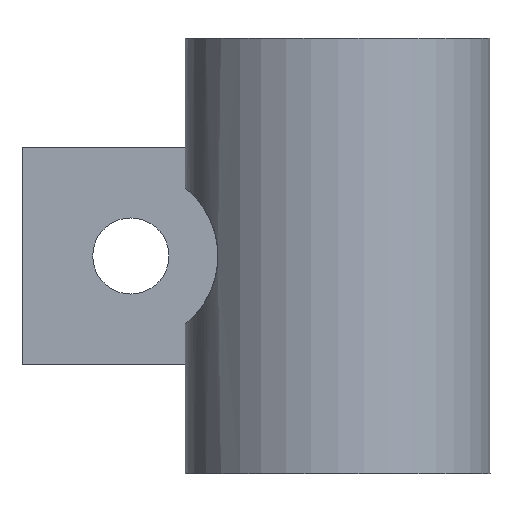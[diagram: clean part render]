
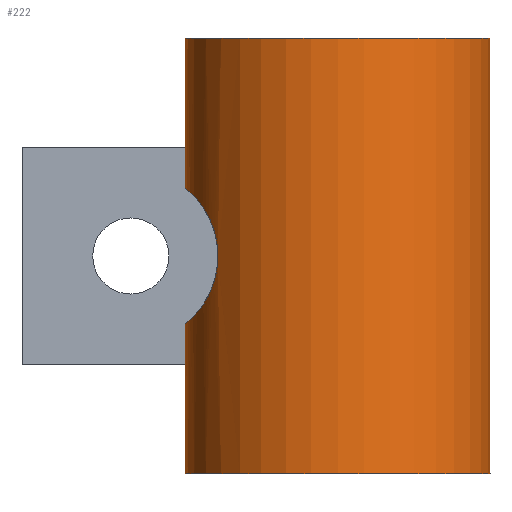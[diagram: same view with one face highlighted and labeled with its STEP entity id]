
A CAD part, left-side view. The second image highlights one B-rep face of the part: STEP entity #222.
In plain terms, the highlighted cylindrical face has radius 7 mm (diameter 14 mm), a full revolution.
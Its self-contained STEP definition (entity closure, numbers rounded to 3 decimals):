
#15=B_SPLINE_CURVE_WITH_KNOTS('',3,(#342,#343,#344,#345,#346,#347,#348,
#349,#350,#351,#352,#353,#354,#355,#356,#357,#358,#359,#360,#361,#362,#363),
 .UNSPECIFIED.,.F.,.F.,(4,2,2,2,2,2,2,2,2,2,4),(-1.221,-0.998,
-0.887,-0.776,-0.693,-0.61,
-0.527,-0.445,-0.333,-0.222,
0.),.UNSPECIFIED.);
#18=CYLINDRICAL_SURFACE('',#241,7.);
#23=FACE_BOUND('',#61,.T.);
#24=FACE_BOUND('',#62,.T.);
#31=CIRCLE('',#240,7.);
#32=CIRCLE('',#242,7.);
#33=CIRCLE('',#243,7.);
#34=CIRCLE('',#244,7.);
#44=FACE_OUTER_BOUND('',#60,.T.);
#60=EDGE_LOOP('',(#182));
#61=EDGE_LOOP('',(#183,#184,#185,#186,#187,#188));
#62=EDGE_LOOP('',(#189));
#74=LINE('',#324,#91);
#81=LINE('',#367,#98);
#85=LINE('',#374,#102);
#91=VECTOR('',#259,10.);
#98=VECTOR('',#278,10.);
#102=VECTOR('',#282,10.);
#105=VERTEX_POINT('',#317);
#108=VERTEX_POINT('',#322);
#114=VERTEX_POINT('',#340);
#115=VERTEX_POINT('',#341);
#116=VERTEX_POINT('',#366);
#119=VERTEX_POINT('',#372);
#121=VERTEX_POINT('',#382);
#122=VERTEX_POINT('',#385);
#128=EDGE_CURVE('',#108,#105,#74,.T.);
#136=EDGE_CURVE('',#114,#115,#15,.T.);
#138=EDGE_CURVE('',#116,#114,#81,.T.);
#142=EDGE_CURVE('',#115,#119,#85,.T.);
#144=EDGE_CURVE('',#108,#116,#31,.T.);
#146=EDGE_CURVE('',#121,#121,#32,.T.);
#147=EDGE_CURVE('',#119,#105,#33,.T.);
#148=EDGE_CURVE('',#122,#122,#34,.T.);
#182=ORIENTED_EDGE('',*,*,#146,.F.);
#183=ORIENTED_EDGE('',*,*,#144,.T.);
#184=ORIENTED_EDGE('',*,*,#138,.T.);
#185=ORIENTED_EDGE('',*,*,#136,.T.);
#186=ORIENTED_EDGE('',*,*,#142,.T.);
#187=ORIENTED_EDGE('',*,*,#147,.T.);
#188=ORIENTED_EDGE('',*,*,#128,.F.);
#189=ORIENTED_EDGE('',*,*,#148,.F.);
#222=ADVANCED_FACE('',(#44,#23,#24),#18,.T.);
#240=AXIS2_PLACEMENT_3D('',#379,#289,#290);
#241=AXIS2_PLACEMENT_3D('',#381,#292,#293);
#242=AXIS2_PLACEMENT_3D('',#383,#294,#295);
#243=AXIS2_PLACEMENT_3D('',#384,#296,#297);
#244=AXIS2_PLACEMENT_3D('',#386,#298,#299);
#259=DIRECTION('',(0.,0.,-1.));
#278=DIRECTION('',(0.,0.,-1.));
#282=DIRECTION('',(0.,0.,-1.));
#289=DIRECTION('center_axis',(0.,0.,1.));
#290=DIRECTION('ref_axis',(-0.766,-0.643,0.));
#292=DIRECTION('center_axis',(0.,0.,1.));
#293=DIRECTION('ref_axis',(-1.,0.,0.));
#294=DIRECTION('center_axis',(0.,0.,1.));
#295=DIRECTION('ref_axis',(-1.,0.,0.));
#296=DIRECTION('center_axis',(0.,0.,-1.));
#297=DIRECTION('ref_axis',(-1.,0.,0.));
#298=DIRECTION('center_axis',(0.,0.,-1.));
#299=DIRECTION('ref_axis',(-1.,0.,0.));
#317=CARTESIAN_POINT('',(2.917,-6.363,5.));
#322=CARTESIAN_POINT('',(2.917,-6.363,15.));
#324=CARTESIAN_POINT('',(2.917,-6.363,0.));
#340=CARTESIAN_POINT('',(0.,7.,13.122));
#341=CARTESIAN_POINT('',(0.,7.,6.878));
#342=CARTESIAN_POINT('Ctrl Pts',(0.,7.,13.122));
#343=CARTESIAN_POINT('Ctrl Pts',(-0.741,7.,13.122));
#344=CARTESIAN_POINT('Ctrl Pts',(-1.526,6.87,13.031));
#345=CARTESIAN_POINT('Ctrl Pts',(-2.553,6.528,12.682));
#346=CARTESIAN_POINT('Ctrl Pts',(-2.872,6.391,12.529));
#347=CARTESIAN_POINT('Ctrl Pts',(-3.431,6.109,12.136));
#348=CARTESIAN_POINT('Ctrl Pts',(-3.673,5.963,11.896));
#349=CARTESIAN_POINT('Ctrl Pts',(-4.008,5.742,11.389));
#350=CARTESIAN_POINT('Ctrl Pts',(-4.131,5.652,11.129));
#351=CARTESIAN_POINT('Ctrl Pts',(-4.292,5.531,10.572));
#352=CARTESIAN_POINT('Ctrl Pts',(-4.33,5.5,10.276));
#353=CARTESIAN_POINT('Ctrl Pts',(-4.33,5.5,9.724));
#354=CARTESIAN_POINT('Ctrl Pts',(-4.292,5.531,9.428));
#355=CARTESIAN_POINT('Ctrl Pts',(-4.131,5.652,8.871));
#356=CARTESIAN_POINT('Ctrl Pts',(-4.008,5.742,8.611));
#357=CARTESIAN_POINT('Ctrl Pts',(-3.673,5.963,8.104));
#358=CARTESIAN_POINT('Ctrl Pts',(-3.431,6.109,7.864));
#359=CARTESIAN_POINT('Ctrl Pts',(-2.872,6.391,7.471));
#360=CARTESIAN_POINT('Ctrl Pts',(-2.553,6.528,7.318));
#361=CARTESIAN_POINT('Ctrl Pts',(-1.526,6.87,6.969));
#362=CARTESIAN_POINT('Ctrl Pts',(-0.741,7.,6.878));
#363=CARTESIAN_POINT('Ctrl Pts',(0.,7.,6.878));
#366=CARTESIAN_POINT('',(0.,7.,15.));
#367=CARTESIAN_POINT('',(0.,7.,0.));
#372=CARTESIAN_POINT('',(0.,7.,5.));
#374=CARTESIAN_POINT('',(0.,7.,0.));
#379=CARTESIAN_POINT('Origin',(0.,0.,15.));
#381=CARTESIAN_POINT('Origin',(0.,0.,0.));
#382=CARTESIAN_POINT('',(-0.001,7.,20.));
#383=CARTESIAN_POINT('Origin',(0.,0.,20.));
#384=CARTESIAN_POINT('Origin',(0.,0.,5.));
#385=CARTESIAN_POINT('',(7.,0.,0.));
#386=CARTESIAN_POINT('Origin',(0.,0.,0.));
